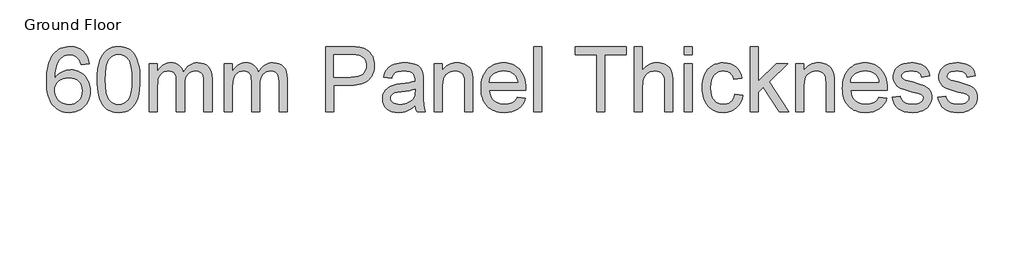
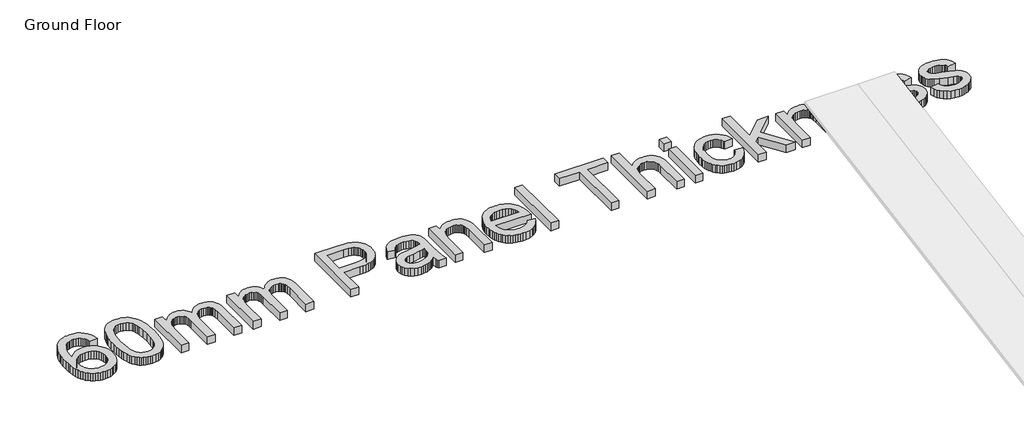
# One storey, part 2 of 5: 1 proxy.
"""IFC4 building model written with IfcOpenShell, lengths in millimetres."""

from ifc_helpers import new_model, si_unit, origin, origin_with_axes, place, context, project, spatial, polyline, outline, extrude, element, save

model = new_model("IFC4")

# Units and contexts
model_context = context("Model", 3, world=origin())
ifc_project = project(units=[si_unit("LENGTHUNIT", "METRE", prefix="MILLI")], contexts=[model_context])

# Site, building, storey
site = spatial("IfcSite", under=ifc_project)
building = spatial("IfcBuilding", under=site)
storey = spatial("IfcBuildingStorey", under=building, Name="Ground Floor", Elevation=0.0)

# Proxy
placement = place(None, origin())
element("IfcBuildingElementProxy", 1, Name="1200mm Arial", ObjectType="1200mm Arial", at=placement, inside=storey, context=model_context, shape_type="SweptSolid", body=[
    extrude(outline(polyline([(-46930.0074937, -36625.7754638), (-47076.9165846, -36644.1391001), (-47087.7123943, -36604.8473743), (-47100.5884596, -36571.3301513), (-47115.5447806, -36543.5874311), (-47132.5813573, -36521.6192138), (-47164.1617906, -36494.880755), (-47199.2212721, -36475.7818558), (-47237.7598019, -36464.3225163), (-47279.7773801, -36460.5027365), (-47314.4243971, -36462.7264581), (-47348.0671528, -36469.3976229), (-47380.7056471, -36480.5162308), (-47412.3398801, -36496.082282), (-47441.2034276, -36521.5385142), (-47467.5383886, -36552.2850518), (-47491.3447629, -36588.3218949), (-47512.6225505, -36629.6490433), (-47530.2419575, -36678.9923494), (-47543.0731897, -36739.0776655), (-47551.1162472, -36809.9049915), (-47554.3711301, -36891.4743274), (-47526.3683779, -36854.5587557), (-47495.4425079, -36822.7182905), (-47461.59352, -36795.9529318), (-47424.8214141, -36774.2626797), (-47386.1125186, -36757.5040682), (-47346.4531613, -36745.5336314), (-47305.8433424, -36738.3513693), (-47264.2830619, -36735.957282), (-47228.3089852, -36737.59369), (-47193.6978346, -36742.5029141), (-47160.4496102, -36750.6849542), (-47128.5643119, -36762.1398104), (-47098.0419397, -36776.8674826), (-47068.8824937, -36794.8679709), (-47041.0859738, -36816.1412752), (-47014.6523801, -36840.6873956), (-46990.5097575, -36867.824869), (-46969.5861514, -36896.8722322), (-46951.8815615, -36927.8294854), (-46937.395988, -36960.6966285), (-46926.1294308, -36995.4736616), (-46918.08189, -37032.1605845), (-46913.2533655, -37070.7573974), (-46911.6438573, -37111.2641001), (-46914.6745747, -37164.8217173), (-46923.7667266, -37216.460478), (-46938.9203133, -37266.1803821), (-46960.1353346, -37313.9814297), (-46986.6585945, -37358.0792635), (-47017.7368971, -37396.6895263), (-47053.3702423, -37429.812218), (-47093.5586301, -37457.4473388), (-47137.441265, -37479.2272571), (-47184.1573516, -37494.7843416), (-47233.70689, -37504.1185923), (-47286.0898801, -37507.2300092), (-47330.9386682, -37505.1676868), (-47373.6668509, -37498.9807195), (-47414.2744282, -37488.6691072), (-47452.7613999, -37474.2328501), (-47489.1277662, -37455.6719481), (-47523.3735271, -37432.9864013), (-47555.4986824, -37406.1762095), (-47585.5032323, -37375.2413729), (-47612.638464, -37339.5721612), (-47636.1556649, -37298.5588445), (-47656.0548348, -37252.2014226), (-47672.3359738, -37200.4998956), (-47684.9990819, -37143.4542635), (-47694.0441592, -37081.0645263), (-47699.4712055, -37013.3306839), (-47701.280221, -36940.2527365), (-47699.2716982, -36858.4278519), (-47693.2461301, -36782.3864368), (-47683.2035164, -36712.1284911), (-47669.1438573, -36647.6540149), (-47651.0671528, -36588.9630082), (-47628.9734028, -36536.0554709), (-47602.8626073, -36488.931403), (-47572.7347664, -36447.5908047), (-47543.4722043, -36416.1852205), (-47511.7796883, -36388.9670476), (-47477.6572185, -36365.9362859), (-47441.1047948, -36347.0929354), (-47402.1224173, -36332.4369961), (-47360.710086, -36321.968468), (-47316.8678009, -36315.6873512), (-47270.5955619, -36313.5936456), (-47202.9334525, -36318.7763516), (-47141.6914426, -36334.3244695), (-47086.869532, -36360.2379993), (-47038.467721, -36396.516941), (-46997.7951357, -36441.9418345), (-46966.1609028, -36495.2932195), (-46943.5650221, -36556.5710959), (-46930.0074937, -36625.7754638)]), holes=[polyline([(-47554.3711301, -37108.9686456), (-47552.2460413, -37141.8851051), (-47545.8707749, -37174.0663018), (-47535.2453311, -37205.5122358), (-47520.3697096, -37236.222907), (-47501.9702068, -37264.7546896), (-47480.7731187, -37289.6639581), (-47456.7784454, -37310.9507123), (-47429.9861869, -37328.6149524), (-47400.5667089, -37342.4863125), (-47368.6903772, -37352.3944268), (-47334.3571918, -37358.3392954), (-47297.5671528, -37360.3209183), (-47246.5022558, -37356.2142067), (-47200.6200647, -37343.8940717), (-47159.9205796, -37323.3605135), (-47124.4038005, -37294.613532), (-47095.5940526, -37258.8187876), (-47075.0156613, -37217.141941), (-47062.6686265, -37169.5829922), (-47058.5529482, -37116.141941), (-47062.6148268, -37064.7901122), (-47074.8004624, -37019.194853), (-47095.1098552, -36979.3561633), (-47123.5430051, -36945.2740433), (-47159.1673836, -36917.9706875), (-47201.0504624, -36898.4682905), (-47249.1922416, -36886.7668523), (-47303.592721, -36882.8663729), (-47353.9761549, -36886.7668523), (-47400.3963431, -36898.4682905), (-47442.8532856, -36917.9706875), (-47481.3469823, -36945.2740433), (-47513.295047, -36978.9078324), (-47536.1150931, -37017.4015291), (-47549.8071208, -37060.7551335), (-47554.3711301, -37108.9686456)])]), origin_with_axes(), (0.0, 0.0, 1.0), 150.0),
    extrude(outline(polyline([(-46783.0984028, -36910.6987592), (-46780.3994504, -36811.8776477), (-46772.3025931, -36722.5790859), (-46758.8078311, -36642.8030739), (-46739.9151641, -36572.5496115), (-46715.705292, -36511.2448352), (-46686.2589141, -36458.3148814), (-46651.5760306, -36413.75975), (-46611.6566414, -36377.579441), (-46566.3662472, -36349.5856555), (-46515.5703488, -36329.5900945), (-46459.2689461, -36317.5927578), (-46397.4620391, -36313.5936456), (-46351.0149511, -36315.9608331), (-46306.9350505, -36323.0623956), (-46265.2223374, -36334.8983331), (-46225.8768119, -36351.4686456), (-46189.8489355, -36372.4953679), (-46158.0891698, -36397.7005348), (-46130.597515, -36427.0841463), (-46107.373971, -36460.6462024), (-46087.2528772, -36498.2522038), (-46069.0685732, -36539.7676513), (-46038.5103346, -36634.5268842), (-46026.8357963, -36690.2544233), (-46018.4968403, -36754.8589155), (-46013.4934667, -36828.3403608), (-46011.8256755, -36910.6987592), (-46014.4977281, -37008.8922074), (-46022.5138857, -37097.7424382), (-46035.8741485, -37177.2494517), (-46054.5785164, -37247.4132479), (-46078.6000896, -37308.744924), (-46107.9119681, -37361.7555774), (-46142.5141521, -37406.4452081), (-46182.4066414, -37442.813816), (-46227.7508353, -37470.9959006), (-46278.7081329, -37491.1259609), (-46335.2785342, -37503.2039971), (-46397.4620391, -37507.2300092), (-46439.0671528, -37505.4815185), (-46478.3768119, -37500.2360462), (-46515.3910164, -37491.4935923), (-46550.1097664, -37479.254157), (-46582.5330619, -37463.51774), (-46612.6609028, -37444.2843416), (-46640.4932891, -37421.5539616), (-46666.030221, -37395.3266001), (-46693.4680761, -37353.7977028), (-46717.2475505, -37306.8260675), (-46737.3686443, -37254.4116942), (-46753.8313573, -37196.5545831), (-46766.6356897, -37133.254734), (-46775.7816414, -37064.512147), (-46781.2692124, -36990.3268221), (-46783.0984028, -36910.6987592)]), holes=[polyline([(-46636.1893119, -36910.4118274), (-46631.8853346, -37038.1233864), (-46618.9734028, -37141.4995405), (-46609.2894539, -37184.0618407), (-46597.4535164, -37220.5402898), (-46583.4655903, -37250.9348876), (-46567.3256755, -37275.2456342), (-46530.8853346, -37312.466071), (-46490.4279482, -37339.0520973), (-46445.9535164, -37355.0037131), (-46397.4620391, -37360.3209183), (-46348.9705619, -37354.9857798), (-46304.4961301, -37338.9803643), (-46264.0387437, -37312.3046719), (-46227.5984028, -37274.9587024), (-46211.458488, -37250.5896728), (-46197.4705619, -37220.1636918), (-46185.6346244, -37183.6807594), (-46175.9506755, -37141.1408757), (-46163.0387437, -37037.8902543), (-46158.7347664, -36910.4118274), (-46162.8952778, -36786.0806839), (-46175.3768119, -36684.5247535), (-46184.7379624, -36642.2874932), (-46196.1793687, -36605.7440362), (-46209.7010306, -36574.8943824), (-46225.3029482, -36549.738532), (-46261.133559, -36510.6978714), (-46302.0572096, -36482.8116854), (-46348.0738999, -36466.0799737), (-46399.1836301, -36460.5027365), (-46447.424042, -36465.4164439), (-46491.1452778, -36480.157566), (-46530.3473374, -36504.726103), (-46565.030221, -36539.1220547), (-46581.7081329, -36566.954441), (-46596.1623232, -36600.095066), (-46608.392792, -36638.5439297), (-46618.3995391, -36682.301032), (-46631.7418687, -36785.7399524), (-46636.1893119, -36910.4118274)])]), origin_with_axes(), (0.0, 0.0, 1.0), 150.0),
    extrude(outline(polyline([(-45846.5529482, -37488.8663729), (-45846.5529482, -36625.7754638), (-45699.6438573, -36625.7754638), (-45699.6438573, -36767.8067138), (-45679.1282323, -36733.4197287), (-45655.4563573, -36702.5655916), (-45628.6282323, -36675.2443025), (-45598.6438573, -36651.4558615), (-45565.9874298, -36632.1865966), (-45531.1431471, -36618.4228359), (-45494.1110093, -36610.1645795), (-45454.8910164, -36607.4118274), (-45412.0126428, -36610.2183793), (-45373.1871812, -36618.6380348), (-45338.4146315, -36632.670794), (-45307.6949937, -36652.316657), (-45281.117934, -36677.0196932), (-45258.7731187, -36706.2239723), (-45240.6605477, -36739.9294943), (-45226.780221, -36778.1362592), (-45200.9473907, -36738.1227205), (-45173.2315704, -36703.4443203), (-45143.63276, -36674.1010586), (-45112.1509596, -36650.0929354), (-45078.7861691, -36631.4199506), (-45043.5383886, -36618.0821044), (-45006.407618, -36610.0793967), (-44967.3938573, -36607.4118274), (-44908.5818012, -36611.850304), (-44856.9609738, -36625.1657337), (-44812.5313751, -36647.3581165), (-44775.2930051, -36678.4274524), (-44745.8555938, -36718.7324062), (-44724.8288715, -36768.6316427), (-44712.2128382, -36828.1251619), (-44708.0074937, -36897.2129638), (-44708.0074937, -37488.8663729), (-44854.9165846, -37488.8663729), (-44854.9165846, -36960.3379638), (-44858.3238999, -36887.0627507), (-44868.545846, -36837.6746115), (-44876.741336, -36819.8579389), (-44887.6985448, -36803.8525234), (-44901.4174724, -36789.658365), (-44917.8981187, -36777.2754638), (-44936.5397203, -36767.2328501), (-44956.7415136, -36760.0595547), (-45001.8256755, -36754.3209183), (-45043.457689, -36757.9972322), (-45081.4133886, -36769.026174), (-45115.6927742, -36787.4077436), (-45146.295846, -36813.141941), (-45171.4651464, -36846.9819623), (-45189.4432181, -36889.6810035), (-45200.2300612, -36941.2390646), (-45203.8256755, -37001.6561456), (-45203.8256755, -37488.8663729), (-45350.7347664, -37488.8663729), (-45350.7347664, -36943.9828501), (-45352.8598552, -36899.4725518), (-45359.2351215, -36860.9160888), (-45369.8605654, -36828.3134609), (-45384.7361869, -36801.6646683), (-45404.4537828, -36780.9517777), (-45429.6051499, -36766.1568558), (-45460.1902884, -36757.2799027), (-45496.2091982, -36754.3209183), (-45525.0637792, -36756.2935746), (-45552.8064994, -36762.2115433), (-45579.4373588, -36772.0748246), (-45604.9563573, -36785.8834183), (-45628.1978346, -36803.4938587), (-45647.9961301, -36824.7626797), (-45664.3512437, -36849.6898814), (-45677.2631755, -36878.2754638), (-45687.0547238, -36912.0437521), (-45694.0486869, -36952.5190717), (-45699.6438573, -37053.5908047), (-45699.6438573, -37488.8663729), (-45846.5529482, -37488.8663729)])), origin_with_axes(), (0.0, 0.0, 1.0), 150.0),
    extrude(outline(polyline([(-44487.6438573, -37488.8663729), (-44487.6438573, -36625.7754638), (-44340.7347664, -36625.7754638), (-44340.7347664, -36767.8067138), (-44320.2191414, -36733.4197287), (-44296.5472664, -36702.5655916), (-44269.7191414, -36675.2443025), (-44239.7347664, -36651.4558615), (-44207.0783389, -36632.1865966), (-44172.2340562, -36618.4228359), (-44135.2019184, -36610.1645795), (-44095.9819255, -36607.4118274), (-44053.1035519, -36610.2183793), (-44014.2780903, -36618.6380348), (-43979.5055406, -36632.670794), (-43948.7859028, -36652.316657), (-43922.2088431, -36677.0196932), (-43899.8640278, -36706.2239723), (-43881.7514568, -36739.9294943), (-43867.8711301, -36778.1362592), (-43842.0382998, -36738.1227205), (-43814.3224795, -36703.4443203), (-43784.7236691, -36674.1010586), (-43753.2418687, -36650.0929354), (-43719.8770782, -36631.4199506), (-43684.6292977, -36618.0821044), (-43647.4985271, -36610.0793967), (-43608.4847664, -36607.4118274), (-43549.6727103, -36611.850304), (-43498.0518829, -36625.1657337), (-43453.6222842, -36647.3581165), (-43416.3839141, -36678.4274524), (-43386.9465029, -36718.7324062), (-43365.9197806, -36768.6316427), (-43353.3037472, -36828.1251619), (-43349.0984028, -36897.2129638), (-43349.0984028, -37488.8663729), (-43496.0074937, -37488.8663729), (-43496.0074937, -36960.3379638), (-43499.414809, -36887.0627507), (-43509.6367551, -36837.6746115), (-43517.8322451, -36819.8579389), (-43528.7894539, -36803.8525234), (-43542.5083815, -36789.658365), (-43558.9890278, -36777.2754638), (-43577.6306293, -36767.2328501), (-43597.8324227, -36760.0595547), (-43642.9165846, -36754.3209183), (-43684.5485981, -36757.9972322), (-43722.5042977, -36769.026174), (-43756.7836833, -36787.4077436), (-43787.3867551, -36813.141941), (-43812.5560555, -36846.9819623), (-43830.5341272, -36889.6810035), (-43841.3209703, -36941.2390646), (-43844.9165846, -37001.6561456), (-43844.9165846, -37488.8663729), (-43991.8256755, -37488.8663729), (-43991.8256755, -36943.9828501), (-43993.9507643, -36899.4725518), (-44000.3260306, -36860.9160888), (-44010.9514745, -36828.3134609), (-44025.827096, -36801.6646683), (-44045.5446918, -36780.9517777), (-44070.696059, -36766.1568558), (-44101.2811975, -36757.2799027), (-44137.3001073, -36754.3209183), (-44166.1546883, -36756.2935746), (-44193.8974085, -36762.2115433), (-44220.5282678, -36772.0748246), (-44246.0472664, -36785.8834183), (-44269.2887437, -36803.4938587), (-44289.0870391, -36824.7626797), (-44305.4421528, -36849.6898814), (-44318.3540846, -36878.2754638), (-44328.1456329, -36912.0437521), (-44335.139596, -36952.5190717), (-44340.7347664, -37053.5908047), (-44340.7347664, -37488.8663729), (-44487.6438573, -37488.8663729)])), origin_with_axes(), (0.0, 0.0, 1.0), 150.0),
    extrude(outline(polyline([(-42651.280221, -37488.8663729), (-42651.280221, -36313.5936456), (-42215.717721, -36313.5936456), (-42114.2873232, -36316.3912308), (-42040.1154482, -36324.7839865), (-41999.2366308, -36333.5981733), (-41961.8189284, -36345.6941427), (-41927.862341, -36361.0718949), (-41897.3668687, -36379.7314297), (-41870.0097132, -36402.0583118), (-41845.4680761, -36428.4381058), (-41823.7419575, -36458.8708118), (-41804.8313573, -36493.3564297), (-41789.5163715, -36530.7561989), (-41778.577096, -36569.9313587), (-41772.0135306, -36610.8819091), (-41769.8256755, -36653.6078501), (-41775.7346776, -36725.7532692), (-41783.1209303, -36759.6605401), (-41793.461684, -36792.1241854), (-41806.7569388, -36823.1442049), (-41823.0066947, -36852.7205987), (-41842.2109516, -36880.8533668), (-41864.3697096, -36907.5425092), (-41890.3841139, -36931.8868807), (-41921.1553097, -36952.9853359), (-41956.6832971, -36970.837875), (-41996.9680761, -36985.4444979), (-42042.0096466, -36996.8052045), (-42091.8080086, -37004.919995), (-42146.3631622, -37009.7888693), (-42205.6751073, -37011.4118274), (-42504.3711301, -37011.4118274), (-42504.3711301, -37488.8663729), (-42651.280221, -37488.8663729)]), holes=[polyline([(-42504.3711301, -36864.5027365), (-42197.0671528, -36864.5027365), (-42126.4101926, -36861.1312876), (-42066.8001073, -36851.016941), (-42018.2368971, -36834.1596967), (-41980.7205619, -36810.5595547), (-41952.7267764, -36780.8441783), (-41932.7312153, -36745.6412308), (-41920.7338786, -36704.9507123), (-41916.7347664, -36658.7726229), (-41919.0929873, -36624.4842706), (-41926.1676499, -36592.7783047), (-41937.9587543, -36563.6547251), (-41954.4663005, -36537.113532), (-41974.8115597, -36514.0155206), (-41998.1158034, -36495.2214865), (-42024.3790313, -36480.7314297), (-42053.6012437, -36470.5453501), (-42110.2702778, -36463.0133899), (-42200.5103346, -36460.5027365), (-42504.3711301, -36460.5027365), (-42504.3711301, -36864.5027365)])]), origin_with_axes(), (0.0, 0.0, 1.0), 150.0),
    extrude(outline(polyline([(-41035.280221, -37378.6845547), (-41070.115537, -37411.3768487), (-41105.470917, -37438.8685035), (-41141.3463609, -37461.1595192), (-41177.7418687, -37478.2498956), (-41215.0699049, -37490.9286953), (-41253.742934, -37499.9849808), (-41293.7609561, -37505.4187521), (-41335.123971, -37507.2300092), (-41400.5354589, -37502.8722322), (-41457.8949227, -37489.7989013), (-41507.2023623, -37468.0100163), (-41548.4577778, -37437.5055774), (-41581.0335058, -37400.2223743), (-41604.3018829, -37358.0971967), (-41618.2629092, -37311.1300447), (-41622.9165846, -37259.3209183), (-41621.1591272, -37228.1708828), (-41615.8867551, -37198.4196399), (-41607.0994681, -37170.0671896), (-41594.7972664, -37143.113532), (-41579.6347132, -37118.1504638), (-41562.2663715, -37095.769782), (-41542.6922416, -37075.9714865), (-41520.9123232, -37058.7555774), (-41472.3132465, -37030.7797251), (-41418.0472664, -37010.551032), (-41365.1800789, -36999.2889581), (-41290.936471, -36988.457282), (-41140.7276641, -36965.2158047), (-41082.7315704, -36952.088674), (-41036.1410164, -36937.957282), (-41035.280221, -36905.2470547), (-41037.8088076, -36869.6316427), (-41045.3945676, -36839.6831342), (-41058.0375008, -36815.4015291), (-41075.7376073, -36796.7868274), (-41106.3317124, -36778.2079922), (-41143.5969823, -36764.9373956), (-41187.533417, -36756.9750376), (-41238.1410164, -36754.3209183), (-41285.1978346, -36756.0873423), (-41325.655221, -36761.3866143), (-41359.5131755, -36770.2187344), (-41386.7716982, -36782.5837024), (-41409.1703133, -36799.4499133), (-41428.4485448, -36821.7857621), (-41444.6063928, -36849.5912486), (-41457.6438573, -36882.8663729), (-41604.5529482, -36864.5027365), (-41593.371574, -36822.1802933), (-41579.0518829, -36784.1618274), (-41561.5938751, -36750.4473388), (-41540.9975505, -36721.0368274), (-41516.3752139, -36695.3384964), (-41486.8391698, -36672.760549), (-41452.3894184, -36653.3029851), (-41413.0259596, -36636.9658047), (-41369.5468225, -36624.0359396), (-41322.7500363, -36614.8003217), (-41272.6356009, -36609.258951), (-41219.2035164, -36607.4118274), (-41166.9729589, -36609.0437521), (-41119.8892409, -36613.9395263), (-41077.9523623, -36622.0991498), (-41041.1623232, -36633.5226229), (-41009.2142586, -36647.4119162), (-40981.8033034, -36662.9690007), (-40958.9294575, -36680.1938764), (-40940.592721, -36699.0865433), (-40925.7260661, -36720.1132656), (-40913.2624653, -36743.7403075), (-40895.5444255, -36798.7953501), (-40890.1644539, -36849.582282), (-40888.3711301, -36927.3408047), (-40888.3711301, -37110.1163729), (-40886.5060732, -37269.3276655), (-40880.9109028, -37365.3422251), (-40869.8640278, -37428.4313587), (-40851.6438573, -37488.8663729), (-40998.5529482, -37488.8663729), (-41011.608346, -37464.3337024), (-41022.0813573, -37437.7925092), (-41035.280221, -37378.6845547)]), holes=[polyline([(-41035.280221, -37084.8663729), (-41079.6829198, -37097.5810391), (-41133.9847664, -37109.3273104), (-41272.2859028, -37129.9146683), (-41348.502167, -37141.1767422), (-41398.6793687, -37153.7300092), (-41431.5689284, -37170.0133899), (-41455.9222664, -37192.4658047), (-41470.9861869, -37219.3656626), (-41476.0074937, -37248.9913729), (-41473.2726748, -37271.8203856), (-41465.0682181, -37292.6767422), (-41451.3941237, -37311.5604425), (-41432.2503914, -37328.4714865), (-41407.8163538, -37342.4056129), (-41378.2713431, -37352.3585604), (-41343.6153595, -37358.3303288), (-41303.8484028, -37360.3209183), (-41263.2475505, -37358.1240966), (-41224.9421528, -37351.5336314), (-41188.9322096, -37340.5495227), (-41155.217721, -37325.1717706), (-41124.8029482, -37306.6736349), (-41098.6921528, -37286.3283757), (-41076.8853346, -37264.1359929), (-41059.3824937, -37240.0964865), (-41049.2143474, -37218.5766001), (-41041.9513857, -37192.4658047), (-41037.5936088, -37161.7641001), (-41036.1410164, -37126.4714865), (-41035.280221, -37084.8663729)])]), origin_with_axes(), (0.0, 0.0, 1.0), 150.0),
    extrude(outline(polyline([(-40686.3711301, -37488.8663729), (-40686.3711301, -36625.7754638), (-40539.4620391, -36625.7754638), (-40539.4620391, -36746.2868274), (-40515.2252671, -36713.7379993), (-40488.424042, -36685.5290149), (-40459.0583637, -36661.6598743), (-40427.1282323, -36642.1305774), (-40392.6336478, -36626.9411243), (-40355.5746102, -36616.0915149), (-40315.9511194, -36609.5817493), (-40273.7631755, -36607.4118274), (-40236.7938041, -36609.1603182), (-40201.3487579, -36614.4057905), (-40167.428037, -36623.1482443), (-40135.0316414, -36635.3876797), (-40105.387998, -36650.4695334), (-40079.7255335, -36667.7392422), (-40058.044248, -36687.1968061), (-40040.3441414, -36708.8422251), (-40013.6236159, -36758.5890291), (-39996.3001073, -36816.8720547), (-39990.489738, -36872.6085604), (-39988.5529482, -36958.9033047), (-39988.5529482, -37488.8663729), (-40135.4620391, -37488.8663729), (-40135.4620391, -36978.7016001), (-40139.6942835, -36902.7364013), (-40144.9845889, -36872.9851584), (-40152.3910164, -36848.7214865), (-40162.4784632, -36828.2865611), (-40175.8118261, -36810.0215575), (-40192.3911052, -36793.9264758), (-40212.2163005, -36780.001316), (-40234.605949, -36768.766142), (-40258.8785874, -36760.7410177), (-40285.034216, -36755.9259432), (-40313.0728346, -36754.3209183), (-40357.6817657, -36757.9254993), (-40399.1165136, -36768.7392422), (-40437.3770782, -36786.762147), (-40472.4634596, -36811.9942138), (-40488.1662517, -36828.0310124), (-40501.7753382, -36847.3047606), (-40513.290719, -36869.8154584), (-40522.7123943, -36895.5631058), (-40535.2746279, -36956.7692493), (-40539.4620391, -37030.923191), (-40539.4620391, -37488.8663729), (-40686.3711301, -37488.8663729)])), origin_with_axes(), (0.0, 0.0, 1.0), 150.0),
    extrude(outline(polyline([(-39182.2745391, -37231.7754638), (-39038.2347664, -37250.1391001), (-39060.3195498, -37307.8303288), (-39090.133559, -37358.6710604), (-39127.6767941, -37402.6612947), (-39172.9492551, -37439.801032), (-39225.4846776, -37469.3012095), (-39284.8167977, -37490.3727649), (-39350.9456151, -37503.0156981), (-39423.8711301, -37507.2300092), (-39470.6903328, -37505.4120272), (-39515.025782, -37499.958081), (-39556.8774777, -37490.8681706), (-39596.2454198, -37478.1422962), (-39633.1296084, -37461.7804576), (-39667.5300434, -37441.7826548), (-39699.4467249, -37418.148888), (-39728.8796528, -37390.879157), (-39755.3087632, -37360.3276433), (-39778.2139923, -37326.8485284), (-39797.5953399, -37290.4418123), (-39813.4528062, -37251.107495), (-39825.7863911, -37208.8455765), (-39834.5960945, -37163.6560568), (-39839.8819166, -37115.5389359), (-39841.6438573, -37064.4942138), (-39839.8639834, -37011.7122092), (-39834.5243616, -36961.9698885), (-39825.6249919, -36915.2672518), (-39813.1658744, -36871.604299), (-39797.147009, -36830.9810302), (-39777.5683957, -36793.3974453), (-39754.4300345, -36758.8535444), (-39727.7319255, -36727.3493274), (-39698.1958815, -36699.2389758), (-39666.5437153, -36674.8766712), (-39632.7754269, -36654.2624133), (-39596.8910164, -36637.3962024), (-39558.8904838, -36624.2780383), (-39518.7738289, -36614.9079212), (-39476.5410519, -36609.2858508), (-39432.1921528, -36607.4118274), (-39389.2936043, -36609.2813675), (-39348.3990953, -36614.8899879), (-39309.5086256, -36624.2376886), (-39272.6221954, -36637.3244695), (-39237.7398046, -36654.1503306), (-39204.8614532, -36674.715272), (-39173.9871412, -36699.0192937), (-39145.1168687, -36727.0623956), (-39118.9903817, -36758.4948796), (-39096.3474262, -36792.9670476), (-39077.1880024, -36830.4788995), (-39061.5121102, -36871.0304354), (-39049.3197496, -36914.6216552), (-39040.6109205, -36961.2525589), (-39035.3856231, -37010.9231467), (-39033.6438573, -37063.6334183), (-39034.5046528, -37103.2300092), (-39694.7347664, -37103.2300092), (-39686.2254447, -37161.8537663), (-39669.305434, -37213.1966285), (-39643.9747345, -37257.2585959), (-39610.233346, -37294.0396683), (-39569.9463254, -37323.0377152), (-39524.9787295, -37343.7506058), (-39475.3305583, -37356.1783402), (-39421.0018119, -37360.3209183), (-39380.3650931, -37358.4020618), (-39342.8128914, -37352.6454922), (-39308.3452068, -37343.0512095), (-39276.9620391, -37329.6192138), (-39248.6633886, -37311.9908402), (-39223.4492551, -37289.807424), (-39201.3196386, -37263.0689652), (-39182.2745391, -37231.7754638)]), holes=[polyline([(-39694.7347664, -36956.3209183), (-39180.5529482, -36956.3209183), (-39188.1028417, -36914.7516712), (-39200.4229766, -36878.7058615), (-39217.5133531, -36848.1834893), (-39239.373971, -36823.1845547), (-39279.4368261, -36793.0567138), (-39325.0231187, -36771.5368274), (-39376.1328488, -36758.6248956), (-39432.7660164, -36754.3209183), (-39484.4227103, -36757.7551335), (-39531.7933602, -36768.0577791), (-39574.877966, -36785.2288551), (-39613.6765278, -36809.2683615), (-39646.2343225, -36839.0644375), (-39670.5966272, -36873.5052223), (-39686.7634418, -36912.5907159), (-39694.7347664, -36956.3209183)])]), origin_with_axes(), (0.0, 0.0, 1.0), 150.0),
    extrude(outline(polyline([(-38886.7347664, -37488.8663729), (-38886.7347664, -36313.5936456), (-38739.8256755, -36313.5936456), (-38739.8256755, -37488.8663729), (-38886.7347664, -37488.8663729)])), origin_with_axes(), (0.0, 0.0, 1.0), 150.0),
    extrude(outline(polyline([(-37748.1893119, -37488.8663729), (-37748.1893119, -36460.5027365), (-38133.8256755, -36460.5027365), (-38133.8256755, -36313.5936456), (-37215.6438573, -36313.5936456), (-37215.6438573, -36460.5027365), (-37601.280221, -36460.5027365), (-37601.280221, -37488.8663729), (-37748.1893119, -37488.8663729)])), origin_with_axes(), (0.0, 0.0, 1.0), 150.0),
    extrude(outline(polyline([(-37068.7347664, -37488.8663729), (-37068.7347664, -36313.5936456), (-36921.8256755, -36313.5936456), (-36921.8256755, -36745.7129638), (-36895.6745303, -36713.2986349), (-36867.8645605, -36685.2062166), (-36838.3957661, -36661.4357088), (-36807.2681471, -36641.9871115), (-36774.4817036, -36626.8604247), (-36740.0364355, -36616.0556484), (-36703.9323428, -36609.5727827), (-36666.1694255, -36607.4118274), (-36620.2424014, -36609.7700483), (-36577.4357607, -36616.8447109), (-36537.7495036, -36628.6358153), (-36501.1836301, -36645.1433615), (-36468.6706684, -36665.811419), (-36441.1431471, -36690.0840575), (-36418.6010661, -36717.961277), (-36401.0444255, -36749.4430774), (-36387.8634951, -36786.4752152), (-36378.4485448, -36831.0034467), (-36372.7995747, -36883.027772), (-36370.9165846, -36942.548191), (-36370.9165846, -37488.8663729), (-36517.8256755, -37488.8663729), (-36517.8256755, -36957.7555774), (-36520.7487934, -36908.1522393), (-36529.5181471, -36865.7939297), (-36544.1337366, -36830.6806484), (-36564.5955619, -36802.8123956), (-36590.4194255, -36781.5973743), (-36621.1211301, -36766.4437876), (-36656.7006755, -36757.3516356), (-36697.1580619, -36754.3209183), (-36728.6757288, -36756.3653075), (-36759.242934, -36762.4984751), (-36788.8596776, -36772.7204212), (-36817.5259596, -36787.0311456), (-36843.6905548, -36804.8388516), (-36865.802238, -36825.5517422), (-36883.8610093, -36849.1698175), (-36897.8668687, -36875.6930774), (-36908.3488467, -36906.3409822), (-36915.8359738, -36942.3329922), (-36920.3282501, -36983.6691072), (-36921.8256755, -37030.3493274), (-36921.8256755, -37488.8663729), (-37068.7347664, -37488.8663729)])), origin_with_axes(), (0.0, 0.0, 1.0), 150.0),
    extrude(outline(polyline([(-36168.9165846, -36460.5027365), (-36168.9165846, -36313.5936456), (-36022.0074937, -36313.5936456), (-36022.0074937, -36460.5027365), (-36168.9165846, -36460.5027365)])), origin_with_axes(), (0.0, 0.0, 1.0), 150.0),
    extrude(outline(polyline([(-36168.9165846, -37488.8663729), (-36168.9165846, -36625.7754638), (-36022.0074937, -36625.7754638), (-36022.0074937, -37488.8663729), (-36168.9165846, -37488.8663729)])), origin_with_axes(), (0.0, 0.0, 1.0), 150.0),
    extrude(outline(polyline([(-35250.7347664, -37176.6845547), (-35103.8256755, -37195.048191), (-35119.8041911, -37264.369125), (-35144.7851926, -37325.7097677), (-35178.7686798, -37379.0701193), (-35221.7546528, -37424.4501797), (-35271.9318545, -37460.6663551), (-35327.4890278, -37486.5350518), (-35388.4261727, -37502.0562699), (-35454.7432891, -37507.2300092), (-35497.0052077, -37505.4254771), (-35537.1375541, -37500.0118807), (-35575.1403284, -37490.98922), (-35611.0135306, -37478.357495), (-35644.7571608, -37462.1167058), (-35676.3712188, -37442.2668523), (-35705.8557048, -37418.8079345), (-35733.2106187, -37391.7399524), (-35757.8576135, -37361.3005215), (-35779.2183424, -37327.7272571), (-35797.2928053, -37291.0201593), (-35812.0810022, -37251.179228), (-35823.5829331, -37208.2044632), (-35831.7985981, -37162.095865), (-35836.7279971, -37112.8534334), (-35838.3711301, -37060.4771683), (-35835.5645782, -36992.931625), (-35827.1449227, -36929.7438587), (-35813.1121634, -36870.9138693), (-35793.4663005, -36816.441657), (-35768.0728346, -36767.4211491), (-35736.7972664, -36724.9462734), (-35699.639596, -36689.0170298), (-35656.5998232, -36659.6334183), (-35609.6237046, -36636.7864723), (-35560.6569965, -36620.4672251), (-35509.699699, -36610.6756768), (-35456.7518119, -36607.4118274), (-35391.5734561, -36611.8951371), (-35332.617934, -36625.345066), (-35279.8852458, -36647.7616143), (-35233.3753914, -36679.144782), (-35193.8774333, -36718.7772393), (-35162.180434, -36765.941657), (-35138.2843936, -36820.6380348), (-35122.1893119, -36882.8663729), (-35269.0984028, -36901.2300092), (-35280.5667089, -36866.9147571), (-35295.7471954, -36837.1366143), (-35314.6398623, -36811.895581), (-35337.2447096, -36791.191657), (-35362.9878737, -36775.0607088), (-35391.2954909, -36763.538603), (-35422.1675612, -36756.6253395), (-35455.6040846, -36754.3209183), (-35505.5212543, -36758.8580277), (-35550.5426499, -36772.4693558), (-35590.6682714, -36795.1549027), (-35625.8981187, -36826.9146683), (-35641.2646626, -36846.3811989), (-35654.5823339, -36868.4839155), (-35675.071059, -36920.597907), (-35687.3642941, -36983.2566427), (-35691.4620391, -37056.4601229), (-35687.4539603, -37130.7664971), (-35675.4297238, -37194.1515291), (-35655.3893296, -37246.6152187), (-35642.3630734, -37268.7515602), (-35627.3327778, -37288.157566), (-35592.8023268, -37319.7290327), (-35553.3402352, -37342.2800802), (-35508.9465029, -37355.8107088), (-35459.6211301, -37360.3209183), (-35419.8721066, -37357.5053998), (-35383.5483318, -37349.0588445), (-35350.6498055, -37334.9812521), (-35321.1765278, -37315.2726229), (-35295.9534276, -37289.7177578), (-35275.805434, -37258.1014581), (-35260.732547, -37220.4237237), (-35250.7347664, -37176.6845547)])), origin_with_axes(), (0.0, 0.0, 1.0), 150.0),
    extrude(outline(polyline([(-34975.280221, -37488.8663729), (-34975.280221, -36313.5936456), (-34828.3711301, -36313.5936456), (-34828.3711301, -36945.1305774), (-34498.9734028, -36625.7754638), (-34295.8256755, -36625.7754638), (-34629.2404482, -36949.1476229), (-34277.4620391, -37488.8663729), (-34449.0472664, -37488.8663729), (-34734.5444255, -37051.2953501), (-34828.3711301, -37142.2527365), (-34828.3711301, -37488.8663729), (-34975.280221, -37488.8663729)])), origin_with_axes(), (0.0, 0.0, 1.0), 150.0),
    extrude(outline(polyline([(-34148.9165846, -37488.8663729), (-34148.9165846, -36625.7754638), (-34002.0074937, -36625.7754638), (-34002.0074937, -36746.2868274), (-33977.7707217, -36713.7379993), (-33950.9694965, -36685.5290149), (-33921.6038183, -36661.6598743), (-33889.6736869, -36642.1305774), (-33855.1791024, -36626.9411243), (-33818.1200647, -36616.0915149), (-33778.496574, -36609.5817493), (-33736.3086301, -36607.4118274), (-33699.3392586, -36609.1603182), (-33663.8942124, -36614.4057905), (-33629.9734916, -36623.1482443), (-33597.577096, -36635.3876797), (-33567.9334525, -36650.4695334), (-33542.270988, -36667.7392422), (-33520.5897025, -36687.1968061), (-33502.889596, -36708.8422251), (-33476.1690704, -36758.5890291), (-33458.8455619, -36816.8720547), (-33453.0351926, -36872.6085604), (-33451.0984028, -36958.9033047), (-33451.0984028, -37488.8663729), (-33598.0074937, -37488.8663729), (-33598.0074937, -36978.7016001), (-33602.239738, -36902.7364013), (-33607.5300434, -36872.9851584), (-33614.936471, -36848.7214865), (-33625.0239177, -36828.2865611), (-33638.3572806, -36810.0215575), (-33654.9365597, -36793.9264758), (-33674.7617551, -36780.001316), (-33697.1514035, -36768.766142), (-33721.424042, -36760.7410177), (-33747.5796705, -36755.9259432), (-33775.6182891, -36754.3209183), (-33820.2272203, -36757.9254993), (-33861.6619681, -36768.7392422), (-33899.9225328, -36786.762147), (-33935.0089141, -36811.9942138), (-33950.7117062, -36828.0310124), (-33964.3207927, -36847.3047606), (-33975.8361736, -36869.8154584), (-33985.2578488, -36895.5631058), (-33997.8200825, -36956.7692493), (-34002.0074937, -37030.923191), (-34002.0074937, -37488.8663729), (-34148.9165846, -37488.8663729)])), origin_with_axes(), (0.0, 0.0, 1.0), 150.0),
    extrude(outline(polyline([(-32644.8199937, -37231.7754638), (-32500.780221, -37250.1391001), (-32522.8650043, -37307.8303288), (-32552.6790136, -37358.6710604), (-32590.2222487, -37402.6612947), (-32635.4947096, -37439.801032), (-32688.0301322, -37469.3012095), (-32747.3622522, -37490.3727649), (-32813.4910697, -37503.0156981), (-32886.4165846, -37507.2300092), (-32933.2357874, -37505.4120272), (-32977.5712366, -37499.958081), (-33019.4229323, -37490.8681706), (-33058.7908744, -37478.1422962), (-33095.6750629, -37461.7804576), (-33130.075498, -37441.7826548), (-33161.9921794, -37418.148888), (-33191.4251073, -37390.879157), (-33217.8542178, -37360.3276433), (-33240.7594468, -37326.8485284), (-33260.1407945, -37290.4418123), (-33275.9982607, -37251.107495), (-33288.3318456, -37208.8455765), (-33297.1415491, -37163.6560568), (-33302.4273712, -37115.5389359), (-33304.1893119, -37064.4942138), (-33302.4094379, -37011.7122092), (-33297.0698161, -36961.9698885), (-33288.1704465, -36915.2672518), (-33275.7113289, -36871.604299), (-33259.6924635, -36830.9810302), (-33240.1138502, -36793.3974453), (-33216.9754891, -36758.8535444), (-33190.2773801, -36727.3493274), (-33160.741336, -36699.2389758), (-33129.0891698, -36674.8766712), (-33095.3208815, -36654.2624133), (-33059.436471, -36637.3962024), (-33021.4359383, -36624.2780383), (-32981.3192835, -36614.9079212), (-32939.0865065, -36609.2858508), (-32894.7376073, -36607.4118274), (-32851.8390589, -36609.2813675), (-32810.9445498, -36614.8899879), (-32772.0540802, -36624.2376886), (-32735.1676499, -36637.3244695), (-32700.2852591, -36654.1503306), (-32667.4069078, -36674.715272), (-32636.5325958, -36699.0192937), (-32607.6623232, -36727.0623956), (-32581.5358362, -36758.4948796), (-32558.8928808, -36792.9670476), (-32539.7334569, -36830.4788995), (-32524.0575647, -36871.0304354), (-32511.8652041, -36914.6216552), (-32503.1563751, -36961.2525589), (-32497.9310777, -37010.9231467), (-32496.1893119, -37063.6334183), (-32497.0501073, -37103.2300092), (-33157.280221, -37103.2300092), (-33148.7708992, -37161.8537663), (-33131.8508886, -37213.1966285), (-33106.520189, -37257.2585959), (-33072.7788005, -37294.0396683), (-33032.4917799, -37323.0377152), (-32987.524184, -37343.7506058), (-32937.8760129, -37356.1783402), (-32883.5472664, -37360.3209183), (-32842.9105477, -37358.4020618), (-32805.358346, -37352.6454922), (-32770.8906613, -37343.0512095), (-32739.5074937, -37329.6192138), (-32711.2088431, -37311.9908402), (-32685.9947096, -37289.807424), (-32663.8650931, -37263.0689652), (-32644.8199937, -37231.7754638)]), holes=[polyline([(-33157.280221, -36956.3209183), (-32643.0984028, -36956.3209183), (-32650.6482963, -36914.7516712), (-32662.9684312, -36878.7058615), (-32680.0588076, -36848.1834893), (-32701.9194255, -36823.1845547), (-32741.9822806, -36793.0567138), (-32787.5685732, -36771.5368274), (-32838.6783034, -36758.6248956), (-32895.311471, -36754.3209183), (-32946.9681649, -36757.7551335), (-32994.3388147, -36768.0577791), (-33037.4234205, -36785.2288551), (-33076.2219823, -36809.2683615), (-33108.7797771, -36839.0644375), (-33133.1420818, -36873.5052223), (-33149.3088964, -36912.5907159), (-33157.280221, -36956.3209183)])]), origin_with_axes(), (0.0, 0.0, 1.0), 150.0),
    extrude(outline(polyline([(-32404.3711301, -37231.7754638), (-32257.4620391, -37213.4118274), (-32248.585086, -37246.9111172), (-32234.2922948, -37276.2498956), (-32214.5836656, -37301.4281626), (-32189.4591982, -37322.4459183), (-32158.8471599, -37339.0162308), (-32122.6758176, -37350.8521683), (-32080.9451713, -37357.9537308), (-32033.655221, -37360.3209183), (-31986.4190704, -37358.1509964), (-31945.7106187, -37351.6412308), (-31911.5298659, -37340.7916214), (-31883.8768119, -37325.6021683), (-31862.5362579, -37307.4895973), (-31847.2930051, -37287.8706342), (-31838.1470534, -37266.7452791), (-31835.0984028, -37244.113532), (-31838.1649866, -37224.27937), (-31847.364738, -37206.6689297), (-31862.697657, -37191.2822109), (-31884.1637437, -37178.1192138), (-31939.1829198, -37159.4686456), (-32035.3768119, -37136.2271683), (-32169.4457039, -37097.4555064), (-32256.6012437, -37064.3507479), (-32286.5228524, -37047.7535355), (-32312.5888147, -37028.2332052), (-32334.7991308, -37005.7897571), (-32353.1538005, -36980.423191), (-32367.5272913, -36952.8956697), (-32377.7940704, -36923.9693558), (-32383.9541379, -36893.6442493), (-32386.0074937, -36861.9203501), (-32384.3576357, -36832.9133366), (-32379.4080619, -36805.0002507), (-32371.1587721, -36778.1810923), (-32359.6097664, -36752.4558615), (-32345.2093758, -36728.3446221), (-32328.4059312, -36706.3674382), (-32309.1994326, -36686.5243096), (-32287.5898801, -36668.8152365), (-32247.0248943, -36645.179228), (-32194.1935732, -36625.345066), (-32133.1129624, -36611.8951371), (-32067.8001073, -36607.4118274), (-32018.4299014, -36609.2141179), (-31972.1800789, -36614.6209893), (-31929.05064, -36623.6324418), (-31889.0415846, -36636.2484751), (-31853.1033744, -36651.9400589), (-31822.186471, -36670.1781626), (-31796.2908744, -36690.9627862), (-31775.4165846, -36714.2939297), (-31758.4876073, -36740.9875554), (-31744.4279482, -36771.8596257), (-31733.2376073, -36806.9101406), (-31724.9165846, -36846.1391001), (-31871.8256755, -36864.5027365), (-31878.8286052, -36839.9610994), (-31890.3686443, -36818.2708473), (-31906.4457927, -36799.4319801), (-31927.0600505, -36783.4444979), (-31952.3010839, -36770.7029318), (-31982.258559, -36761.6018132), (-32016.9324759, -36756.141142), (-32056.3228346, -36754.3209183), (-32102.0167266, -36756.0604425), (-32140.6807891, -36761.2790149), (-32172.3150221, -36769.9766356), (-32196.9194255, -36782.1533047), (-32215.3727281, -36796.6433615), (-32228.5536585, -36812.2811456), (-32236.4622167, -36829.066657), (-32239.0984028, -36846.9998956), (-32234.7226926, -36869.5957763), (-32221.5955619, -36889.7527365), (-32199.1431471, -36907.7577081), (-32166.7915846, -36922.176032), (-32040.2546528, -36953.4516001), (-31910.4538715, -36991.8287308), (-31824.6253914, -37022.6021683), (-31794.4258176, -37037.6122891), (-31767.6694255, -37055.6710604), (-31744.3562153, -37076.7784822), (-31724.4861869, -37100.9345547), (-31708.6063041, -37128.1751442), (-31697.2635306, -37158.5361172), (-31690.4578666, -37192.0174737), (-31688.1893119, -37228.6192138), (-31690.8523978, -37265.382353), (-31698.8416556, -37301.0694979), (-31712.1570853, -37335.6806484), (-31730.7986869, -37369.2158047), (-31754.4615953, -37400.3389403), (-31782.8409454, -37427.7140291), (-31815.9367373, -37451.341071), (-31853.748971, -37471.220066), (-31895.2464852, -37486.9744162), (-31939.3981187, -37498.2275234), (-31986.2038715, -37504.9793878), (-32035.6637437, -37507.2300092), (-32114.7313928, -37502.8901655), (-32183.7922948, -37489.8706342), (-32242.8464497, -37468.1714155), (-32291.8938573, -37437.7925092), (-32331.9567124, -37398.8773814), (-32364.0572096, -37351.5694979), (-32388.1953488, -37295.8688587), (-32404.3711301, -37231.7754638)])), origin_with_axes(), (0.0, 0.0, 1.0), 150.0),
    extrude(outline(polyline([(-31578.0074937, -37231.7754638), (-31431.0984028, -37213.4118274), (-31422.2214497, -37246.9111172), (-31407.9286585, -37276.2498956), (-31388.2200292, -37301.4281626), (-31363.0955619, -37322.4459183), (-31332.4835235, -37339.0162308), (-31296.3121812, -37350.8521683), (-31254.5815349, -37357.9537308), (-31207.2915846, -37360.3209183), (-31160.055434, -37358.1509964), (-31119.3469823, -37351.6412308), (-31085.1662295, -37340.7916214), (-31057.5131755, -37325.6021683), (-31036.1726215, -37307.4895973), (-31020.9293687, -37287.8706342), (-31011.783417, -37266.7452791), (-31008.7347664, -37244.113532), (-31011.8013502, -37224.27937), (-31021.0011016, -37206.6689297), (-31036.3340207, -37191.2822109), (-31057.8001073, -37178.1192138), (-31112.8192835, -37159.4686456), (-31209.0131755, -37136.2271683), (-31343.0820676, -37097.4555064), (-31430.2376073, -37064.3507479), (-31460.159216, -37047.7535355), (-31486.2251784, -37028.2332052), (-31508.4354944, -37005.7897571), (-31526.7901641, -36980.423191), (-31541.1636549, -36952.8956697), (-31551.430434, -36923.9693558), (-31557.5905015, -36893.6442493), (-31559.6438573, -36861.9203501), (-31557.9939994, -36832.9133366), (-31553.0444255, -36805.0002507), (-31544.7951357, -36778.1810923), (-31533.2461301, -36752.4558615), (-31518.8457394, -36728.3446221), (-31502.0422948, -36706.3674382), (-31482.8357963, -36686.5243096), (-31461.2262437, -36668.8152365), (-31420.6612579, -36645.179228), (-31367.8299369, -36625.345066), (-31306.7493261, -36611.8951371), (-31241.436471, -36607.4118274), (-31192.066265, -36609.2141179), (-31145.8164426, -36614.6209893), (-31102.6870036, -36623.6324418), (-31062.6779482, -36636.2484751), (-31026.739738, -36651.9400589), (-30995.8228346, -36670.1781626), (-30969.927238, -36690.9627862), (-30949.0529482, -36714.2939297), (-30932.123971, -36740.9875554), (-30918.0643119, -36771.8596257), (-30906.873971, -36806.9101406), (-30898.5529482, -36846.1391001), (-31045.4620391, -36864.5027365), (-31052.4649688, -36839.9610994), (-31064.0050079, -36818.2708473), (-31080.0821563, -36799.4319801), (-31100.6964141, -36783.4444979), (-31125.9374475, -36770.7029318), (-31155.8949227, -36761.6018132), (-31190.5688396, -36756.141142), (-31229.9591982, -36754.3209183), (-31275.6530903, -36756.0604425), (-31314.3171528, -36761.2790149), (-31345.9513857, -36769.9766356), (-31370.5557891, -36782.1533047), (-31389.0090917, -36796.6433615), (-31402.1900221, -36812.2811456), (-31410.0985803, -36829.066657), (-31412.7347664, -36846.9998956), (-31408.3590562, -36869.5957763), (-31395.2319255, -36889.7527365), (-31372.7795107, -36907.7577081), (-31340.4279482, -36922.176032), (-31213.8910164, -36953.4516001), (-31084.0902352, -36991.8287308), (-30998.2617551, -37022.6021683), (-30968.0621812, -37037.6122891), (-30941.3057891, -37055.6710604), (-30917.9925789, -37076.7784822), (-30898.1225505, -37100.9345547), (-30882.2426677, -37128.1751442), (-30870.8998943, -37158.5361172), (-30864.0942302, -37192.0174737), (-30861.8256755, -37228.6192138), (-30864.4887615, -37265.382353), (-30872.4780193, -37301.0694979), (-30885.793449, -37335.6806484), (-30904.4350505, -37369.2158047), (-30928.0979589, -37400.3389403), (-30956.477309, -37427.7140291), (-30989.5731009, -37451.341071), (-31027.3853346, -37471.220066), (-31068.8828488, -37486.9744162), (-31113.0344823, -37498.2275234), (-31159.8402352, -37504.9793878), (-31209.3001073, -37507.2300092), (-31288.3677565, -37502.8901655), (-31357.4286585, -37489.8706342), (-31416.4828133, -37468.1714155), (-31465.530221, -37437.7925092), (-31505.5930761, -37398.8773814), (-31537.6935732, -37351.5694979), (-31561.8317124, -37295.8688587), (-31578.0074937, -37231.7754638)])), origin_with_axes(), (0.0, 0.0, 1.0), 150.0),
])

save(model, "model.ifc")
